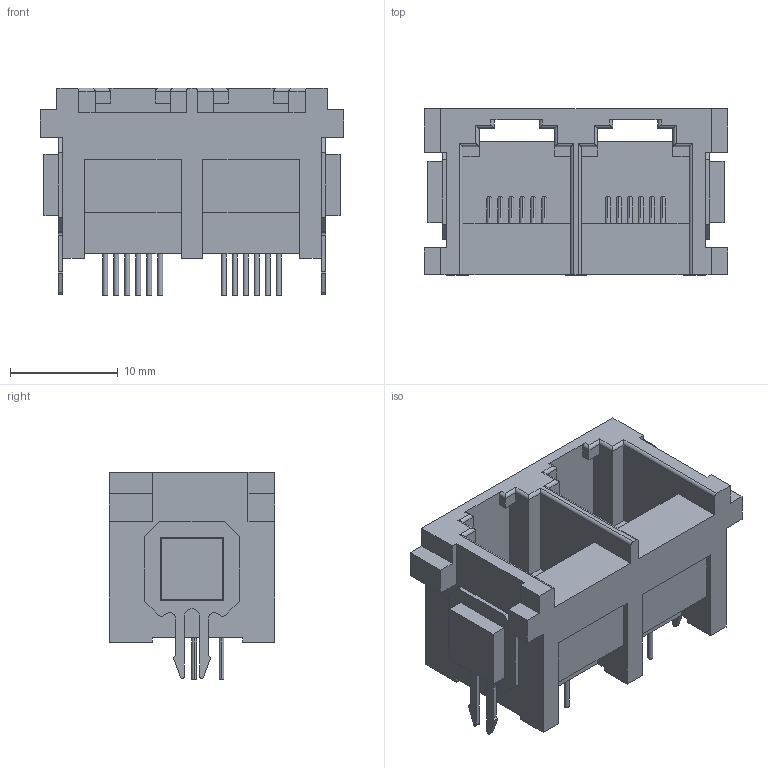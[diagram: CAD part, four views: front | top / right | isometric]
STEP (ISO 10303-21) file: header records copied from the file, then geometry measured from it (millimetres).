
FILE_DESCRIPTION((''),'2;1');
FILE_NAME('DGKYD52251266IWA1DY1T095_ASM','2025-06-13T10:39:58',('DGKYD'),(''),'CREO PARAMETRIC BY PTC INC, 2019010','CREO PARAMETRIC BY PTC INC, 2019010','');
FILE_SCHEMA(('CONFIG_CONTROL_DESIGN'));
Length unit declared in the file: millimetre
Products named in the file (5): DGKYD52251266IWA1DY1T095_1_1; DGKYD52251266IWA1DY1T095_1_3; DGKYD52251266IWA1DY1T095_1_ASM; PRT0001; DGKYD52251266IWA1DY1T095_ASM
Assembly tree (4 placements, depth 3):
  DGKYD52251266IWA1DY1T095_ASM
    DGKYD52251266IWA1DY1T095_1_ASM
      DGKYD52251266IWA1DY1T095_1_1
      DGKYD52251266IWA1DY1T095_1_3
    PRT0001
Bounding box: 28.2 x 15.4 x 19.3 mm (x, y, z)
Volume: 3324 mm3; surface area: 3527 mm2
Topology: 3 solids, 3 shells, 246 faces, 664 edges, 436 vertices
Faces by surface type: plane 164, cylinder 82
Entity records: 8189 total; most frequent: CARTESIAN_POINT 1859, ORIENTED_EDGE 1328, DIRECTION 1198, EDGE_CURVE 664, VECTOR 516, LINE 516, VERTEX_POINT 436, AXIS2_PLACEMENT_3D 341
